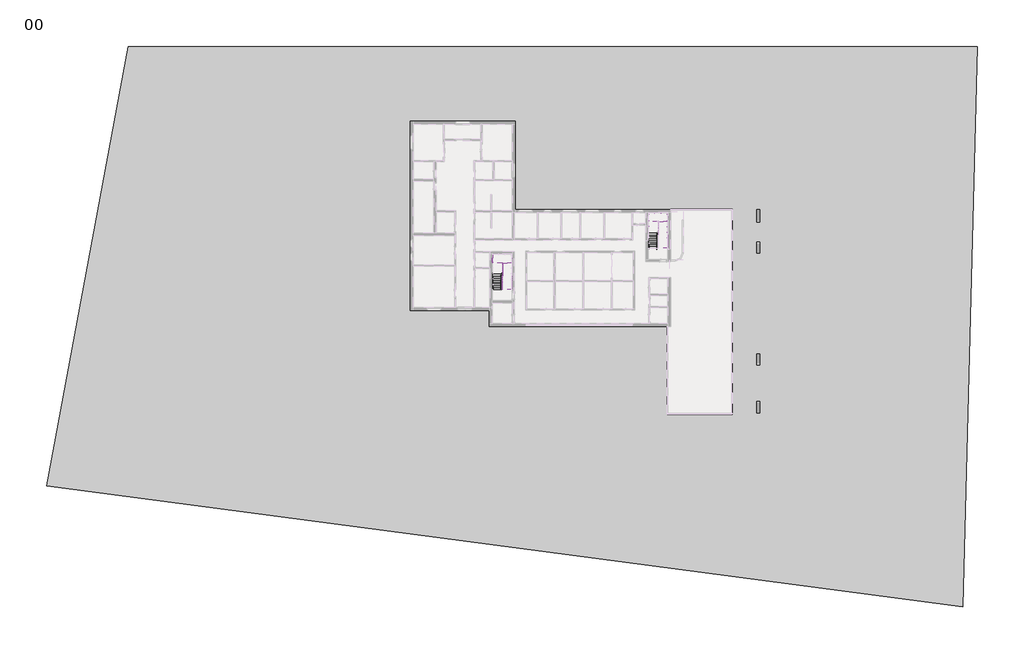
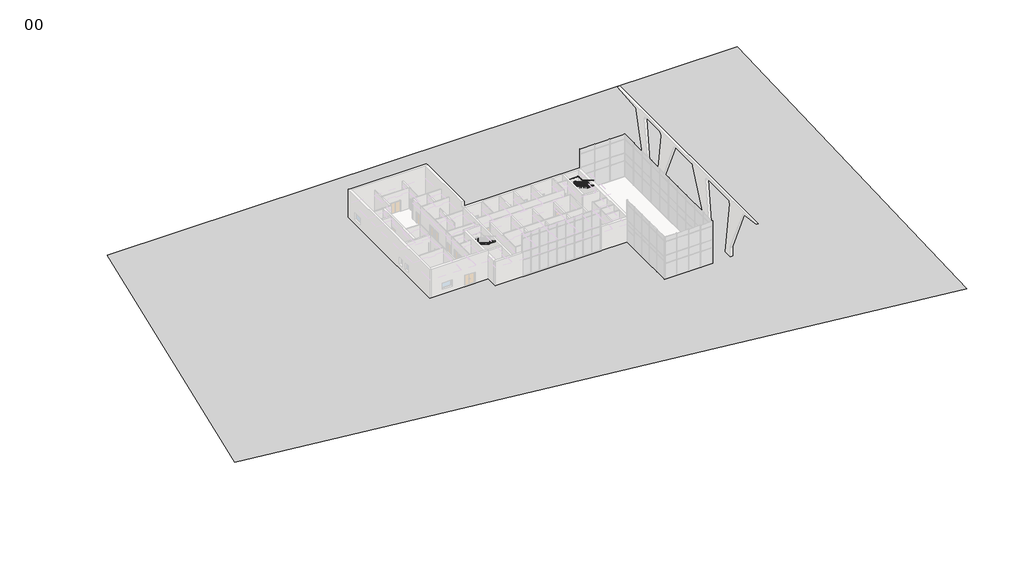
# One storey, part 10 of 11: 11 proxies, 5 members, 4 stair flights, 2 railings, 2 slabs.
"""IFC4 building model written with IfcOpenShell, lengths in millimetres."""

from ifc_helpers import new_model, si_unit, frame, origin, place, context, project, spatial, polyline, circle_curve, ellipse_curve, outline, extrude, faceted_brep, triangles, transform, mapped, element, save
from ifc_brep_helpers import plane_surface, cylinder_surface, advanced_brep
from components import support_circular_support_bend_943144f1, slab_b5527e81, slab_eed05af2, stair_flight_633f8e3b, stair_flight_4ffd47d7, stair_flight_bc6c97eb, stair_flight_164fe082

model = new_model("IFC4")

# Units and contexts
model_context = context("Model", 3, world=origin())
ifc_project = project(units=[si_unit("LENGTHUNIT", "METRE", prefix="MILLI")], contexts=[model_context])

# Site, building, storey
site = spatial("IfcSite", under=ifc_project)
building = spatial("IfcBuilding", under=site)
storey = spatial("IfcBuildingStorey", under=building, Name="00", Elevation=0.0)

# Proxies
placement = place(None, origin())
element("IfcBuildingElementProxy", 1, Name="Building Element Proxy", at=placement, inside=storey, context=model_context, shape_type="Tessellation", body=[
    triangles([(373960.8761719, -359449.724707, 0.0), (486915.2094727, -359492.6244141, 0.0), (484957.7847656, -434074.7138672, 0.0), (363074.3220703, -417951.6049805, 0.0)], [[1, 4, 3], [3, 2, 1]], closed=False),
])
support_circular_support_bend_shape = support_circular_support_bend_943144f1(model_context)
element("IfcBuildingElementProxy", 2, Name="Support_ Circular : Support_Bend", ObjectType="Support_ Circular : Support_Bend", at=placement, inside=storey, context=model_context, shape_type="MappedRepresentation", body=[
    mapped(support_circular_support_bend_shape, transform((443252.7206883, -383415.7141444, 2725.5730965), x_axis=(0.0, 1.0, 0.0), y_axis=(-1.0, 0.0, 0.0), z_axis=(0.0, 0.0, 1.0))),
])
element("IfcBuildingElementProxy", 3, Name="Support_ Circular : Support_Bend", ObjectType="Support_ Circular : Support_Bend", at=placement, inside=storey, context=model_context, shape_type="MappedRepresentation", body=[
    mapped(support_circular_support_bend_shape, transform((443252.7206883, -382670.8797684, 3172.4737221), x_axis=(0.0, 1.0, 0.0), y_axis=(-1.0, 0.0, 0.0), z_axis=(0.0, 0.0, 1.0))),
])
element("IfcBuildingElementProxy", 4, Name="Support_ Circular : Support_Bend", ObjectType="Support_ Circular : Support_Bend", at=placement, inside=storey, context=model_context, shape_type="MappedRepresentation", body=[
    mapped(support_circular_support_bend_shape, transform((443252.7206883, -381840.353659, 3310.0), x_axis=(0.0, 1.0, 0.0), y_axis=(-1.0, 0.0, 0.0), z_axis=(0.0, 0.0, 1.0))),
])
element("IfcBuildingElementProxy", 5, Name="Support_ Circular : Support_Bend", ObjectType="Support_ Circular : Support_Bend", at=placement, inside=storey, context=model_context, shape_type="MappedRepresentation", body=[
    mapped(support_circular_support_bend_shape, transform((443961.3883511, -381680.4026386, 3310.0), x_axis=(1.0, 0.0, 0.0), y_axis=(0.0, 1.0, 0.0), z_axis=(0.0, 0.0, 1.0))),
])
element("IfcBuildingElementProxy", 6, Name="Support_ Circular : Support_Bend", ObjectType="Support_ Circular : Support_Bend", at=placement, inside=storey, context=model_context, shape_type="MappedRepresentation", body=[
    mapped(support_circular_support_bend_shape, transform((444830.0070343, -381680.4026386, 3310.0), x_axis=(1.0, 0.0, 0.0), y_axis=(0.0, 1.0, 0.0), z_axis=(0.0, 0.0, 1.0))),
])
element("IfcBuildingElementProxy", 7, Name="Support_ Circular : Support_Bend", ObjectType="Support_ Circular : Support_Bend", at=placement, inside=storey, context=model_context, shape_type="MappedRepresentation", body=[
    mapped(support_circular_support_bend_shape, transform((445607.9206883, -381771.1076677, 3310.0), x_axis=(0.0, -1.0, 0.0), y_axis=(1.0, 0.0, 0.0), z_axis=(0.0, 0.0, 1.0))),
])
element("IfcBuildingElementProxy", 8, Name="Support_ Circular : Support_Bend", ObjectType="Support_ Circular : Support_Bend", at=placement, inside=storey, context=model_context, shape_type="MappedRepresentation", body=[
    mapped(support_circular_support_bend_shape, transform((445607.9206883, -382639.7263509, 3310.0), x_axis=(0.0, -1.0, 0.0), y_axis=(1.0, 0.0, 0.0), z_axis=(0.0, 0.0, 1.0))),
])
element("IfcBuildingElementProxy", 9, Name="Support_ Circular : Support_Bend", ObjectType="Support_ Circular : Support_Bend", at=placement, inside=storey, context=model_context, shape_type="MappedRepresentation", body=[
    mapped(support_circular_support_bend_shape, transform((445607.9206883, -383415.7141444, 3644.4269035), x_axis=(0.0, -1.0, 0.0), y_axis=(1.0, 0.0, 0.0), z_axis=(0.0, 0.0, 1.0))),
])
element("IfcBuildingElementProxy", 10, Name="Support_ Circular : Support_Bend", ObjectType="Support_ Circular : Support_Bend", at=placement, inside=storey, context=model_context, shape_type="MappedRepresentation", body=[
    mapped(support_circular_support_bend_shape, transform((445607.9206883, -384160.5485203, 4091.327529), x_axis=(0.0, -1.0, 0.0), y_axis=(1.0, 0.0, 0.0), z_axis=(0.0, 0.0, 1.0))),
])
element("IfcBuildingElementProxy", 11, Name="Support_ Circular : Support_Bend", ObjectType="Support_ Circular : Support_Bend", at=placement, inside=storey, context=model_context, shape_type="MappedRepresentation", body=[
    mapped(support_circular_support_bend_shape, transform((445607.9206883, -384905.3828963, 4538.2281546), x_axis=(0.0, -1.0, 0.0), y_axis=(1.0, 0.0, 0.0), z_axis=(0.0, 0.0, 1.0))),
])

# Members
element("IfcMember", 12, ObjectType="Stringer_25x250mm_Material", at=placement, inside=storey, context=model_context, shape_type="SweptSolid", body=[
    extrude(outline(polyline([(-391774.0026386, 0.0), (-391774.0026386, 177.2380758), (-388236.0660983, 2300.0), (-388166.820107, 2050.0), (-391583.4867737, 0.0), (-391774.0026386, 0.0)])), frame((422376.3206883, 0.0, 0.0), z_axis=(1.0, 0.0, 0.0), x_axis=(0.0, 1.0, 0.0)), (0.0, 0.0, 1.0), 25.0),
])
element("IfcMember", 13, ObjectType="Stringer_25x250mm_Material", at=placement, inside=storey, context=model_context, shape_type="SweptSolid", body=[
    extrude(outline(polyline([(-391774.0026386, 0.0), (-391774.0026386, 177.2380758), (-388299.0026386, 2262.2380758), (-388299.0026386, 1970.6904811), (-391583.4867737, 0.0), (-391774.0026386, 0.0)])), frame((423601.3206883, 0.0, 0.0), z_axis=(1.0, 0.0, 0.0), x_axis=(0.0, 1.0, 0.0)), (0.0, 0.0, 1.0), 25.0),
])
element("IfcMember", 14, ObjectType="Stringer_25x250mm_Material", at=placement, inside=storey, context=model_context, shape_type="SweptSolid", body=[
    extrude(outline(polyline([(-388274.0026386, 2427.2380758), (-388274.0026386, 2135.6904811), (-391774.0026386, 4235.6904811), (-391774.0026386, 4527.2380758), (-388274.0026386, 2427.2380758)])), frame((423726.3206883, 0.0, 0.0), z_axis=(1.0, 0.0, 0.0), x_axis=(0.0, 1.0, 0.0)), (0.0, 0.0, 1.0), 25.0),
])
element("IfcMember", 15, ObjectType="Stringer_25x250mm_Material", at=placement, inside=storey, context=model_context, shape_type="Brep", body=[
    faceted_brep([(422401.3206883, -387074.0026386, 2300.0), (422376.3206883, -387049.0026386, 2300.0), (422376.3206883, -388236.0660983, 2300.0), (422401.3206883, -388236.0660983, 2300.0), (422401.3206883, -387074.0026386, 2050.0), (422401.3206883, -388166.820107, 2050.0), (422376.3206883, -387049.0026386, 2050.0), (422376.3206883, -388166.820107, 2050.0)], [[[0, 1, 2, 3]], [[4, 0, 3, 5]], [[6, 4, 5, 7]], [[1, 6, 7, 2]], [[1, 0, 4, 6]], [[2, 7, 5, 3]]]),
])
element("IfcMember", 16, ObjectType="Stringer_25x250mm_Material", at=placement, inside=storey, context=model_context, shape_type="SweptSolid", body=[
    extrude(outline(polyline([(423601.3206883, -388299.0026386), (423601.3206883, -388274.0026386), (423726.3206883, -388274.0026386), (423726.3206883, -388299.0026386), (423601.3206883, -388299.0026386)])), frame((0.0, 0.0, 2050.0), z_axis=(0.0, 0.0, 1.0), x_axis=(1.0, 0.0, 0.0)), (0.0, 0.0, 1.0), 250.0),
])

# Railings
element("IfcRailing", 17, ObjectType="Concept_900-1100mm_RailStop_Baluster", at=placement, inside=storey, context=model_context, shape_type="SolidModel", body=[
    advanced_brep(
    [(444261.9206883, -386470.0026386, 1030.0), (444221.9206883, -386470.0026386, 1030.0), (444261.9206883, -386269.4629593, 1030.0), (444221.9206883, -386269.4629593, 1030.0), (444261.9206883, -382729.6026386, 3153.9161924), (444221.9206883, -382729.6026386, 3153.9161924), (444261.9206883, -382729.6026386, 3330.0), (444221.9206883, -382729.6026386, 3330.0), (444261.9206883, -382689.6026386, 3330.0), (444221.9206883, -382649.6026386, 3330.0), (444321.9206883, -382689.6026386, 3330.0), (444321.9206883, -382649.6026386, 3330.0), (444598.7206883, -382689.6026386, 3330.0), (444638.7206883, -382649.6026386, 3330.0), (444598.7206883, -382863.8756512, 3330.0), (444638.7206883, -382863.8756512, 3330.0), (444598.7206883, -386280.5423179, 5380.0), (444638.7206883, -386280.5423179, 5380.0), (444598.7206883, -386670.0026386, 5380.0), (444638.7206883, -386670.0026386, 5380.0)],
    [
        (0, 1, circle_curve(frame((444241.9206883, -386470.0026386, 1030.0), z_axis=(0.0, -1.0, 0.0), x_axis=(-1.0, 0.0, 0.0)), 20.0)),
        (1, 0, circle_curve(frame((444241.9206883, -386470.0026386, 1030.0), z_axis=(0.0, -1.0, 0.0), x_axis=(-1.0, 0.0, 0.0)), 20.0)),
        (0, 2),
        (2, 3, ellipse_curve(frame((444241.9206883, -386269.4629593, 1030.0), z_axis=(0.0, -0.9637149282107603, -0.26693358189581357), x_axis=(0.0, -0.26693358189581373, 0.9637149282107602)), 20.753025, 20.0)),
        (3, 1),
        (3, 2, ellipse_curve(frame((444241.9206883, -386269.4629593, 1030.0), z_axis=(0.0, -0.9637149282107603, -0.26693358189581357), x_axis=(0.0, -0.26693358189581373, 0.9637149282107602)), 20.753025, 20.0)),
        (2, 4),
        (4, 5, ellipse_curve(frame((444241.9206883, -382729.6026386, 3153.9161924), z_axis=(0.0, -0.49269881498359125, -0.8701999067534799), x_axis=(0.0, -0.8701999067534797, 0.4926988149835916)), 22.9832247, 20.0)),
        (5, 3),
        (5, 4, ellipse_curve(frame((444241.9206883, -382729.6026386, 3153.9161924), z_axis=(0.0, -0.49269881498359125, -0.8701999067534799), x_axis=(0.0, -0.8701999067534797, 0.4926988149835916)), 22.9832247, 20.0)),
        (4, 6),
        (6, 7, ellipse_curve(frame((444241.9206883, -382729.6026386, 3330.0), z_axis=(0.0, -0.7071067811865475, -0.7071067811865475), x_axis=(0.0, 0.7071067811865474, -0.7071067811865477)), 28.2842712, 20.0)),
        (7, 5),
        (7, 6, ellipse_curve(frame((444241.9206883, -382729.6026386, 3330.0), z_axis=(0.0, -0.7071067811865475, -0.7071067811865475), x_axis=(0.0, 0.7071067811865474, -0.7071067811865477)), 28.2842712, 20.0)),
        (6, 8),
        (8, 9, ellipse_curve(frame((444241.9206883, -382669.6026386, 3330.0), z_axis=(-0.7071067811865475, -0.7071067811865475, 0.0), x_axis=(0.7071067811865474, -0.7071067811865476, 0.0)), 28.2842712, 20.0)),
        (9, 7),
        (9, 8, ellipse_curve(frame((444241.9206883, -382669.6026386, 3330.0), z_axis=(-0.7071067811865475, -0.7071067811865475, 0.0), x_axis=(0.7071067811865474, -0.7071067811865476, 0.0)), 28.2842712, 20.0)),
        (8, 10),
        (10, 11, circle_curve(frame((444321.9206883, -382669.6026386, 3330.0), z_axis=(-1.0, 0.0, 0.0), x_axis=(0.0, 1.0, 0.0)), 20.0)),
        (11, 9),
        (11, 10, circle_curve(frame((444321.9206883, -382669.6026386, 3330.0), z_axis=(-1.0, 0.0, 0.0), x_axis=(0.0, 1.0, 0.0)), 20.0)),
        (10, 12),
        (12, 13, ellipse_curve(frame((444618.7206883, -382669.6026386, 3330.0), z_axis=(-0.7071067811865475, 0.7071067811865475, 0.0), x_axis=(-0.7071067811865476, -0.7071067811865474, 0.0)), 28.2842712, 20.0)),
        (13, 11),
        (13, 12, ellipse_curve(frame((444618.7206883, -382669.6026386, 3330.0), z_axis=(-0.7071067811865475, 0.7071067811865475, 0.0), x_axis=(-0.7071067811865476, -0.7071067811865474, 0.0)), 28.2842712, 20.0)),
        (12, 14),
        (14, 15, ellipse_curve(frame((444618.7206883, -382863.8756512, 3330.0), z_axis=(0.0, 0.9637149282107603, -0.2669335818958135), x_axis=(0.0, 0.26693358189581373, 0.9637149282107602)), 20.753025, 20.0)),
        (15, 13),
        (15, 14, ellipse_curve(frame((444618.7206883, -382863.8756512, 3330.0), z_axis=(0.0, 0.9637149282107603, -0.2669335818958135), x_axis=(0.0, 0.26693358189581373, 0.9637149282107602)), 20.753025, 20.0)),
        (14, 16),
        (16, 17, ellipse_curve(frame((444618.7206883, -386280.5423179, 5380.0), z_axis=(0.0, 0.9637149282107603, -0.2669335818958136), x_axis=(0.0, -0.26693358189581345, -0.9637149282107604)), 20.753025, 20.0)),
        (17, 15),
        (17, 16, ellipse_curve(frame((444618.7206883, -386280.5423179, 5380.0), z_axis=(0.0, 0.9637149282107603, -0.2669335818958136), x_axis=(0.0, -0.26693358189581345, -0.9637149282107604)), 20.753025, 20.0)),
        (18, 19, circle_curve(frame((444618.7206883, -386670.0026386, 5380.0), z_axis=(0.0, -1.0, 0.0), x_axis=(1.0, 0.0, 0.0)), 20.0)),
        (19, 18, circle_curve(frame((444618.7206883, -386670.0026386, 5380.0), z_axis=(0.0, -1.0, 0.0), x_axis=(1.0, 0.0, 0.0)), 20.0)),
        (16, 18),
        (19, 17),
    ],
    [
        plane_surface(frame((444241.9206883, -386470.0026386, 1050.0), z_axis=(0.0, -1.0, 0.0), x_axis=(0.0, 0.0, 1.0))),
        cylinder_surface(frame((444241.9206883, -386470.0026386, 1030.0), z_axis=(0.0, -1.0, 0.0), x_axis=(-1.0, 0.0, 0.0)), 20.0),
        cylinder_surface(frame((444241.9206883, -386264.7127235, 1032.8501415), z_axis=(0.0, -0.857492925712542, -0.5144957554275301), x_axis=(-1.0, 0.0, 0.0)), 20.0),
        cylinder_surface(frame((444241.9206883, -382729.6026386, 3165.24), z_axis=(0.0, 0.0, -1.0), x_axis=(-1.0, 0.0, 0.0)), 20.0),
        cylinder_surface(frame((444241.9206883, -382749.6026386, 3330.0), z_axis=(0.0, -1.0, 0.0), x_axis=(-1.0, 0.0, 0.0)), 20.0),
        cylinder_surface(frame((444241.9206883, -382669.6026386, 3330.0), z_axis=(-1.0, 0.0, 0.0), x_axis=(0.0, 1.0, 0.0)), 20.0),
        cylinder_surface(frame((444321.9206883, -382669.6026386, 3330.0), z_axis=(-1.0, 0.0, 0.0), x_axis=(0.0, 1.0, 0.0)), 20.0),
        cylinder_surface(frame((444618.7206883, -382669.6026386, 3330.0), z_axis=(0.0, 1.0, 0.0), x_axis=(1.0, 0.0, 0.0)), 20.0),
        cylinder_surface(frame((444618.7206883, -382868.6258871, 3332.8501415), z_axis=(0.0, 0.857492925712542, -0.5144957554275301), x_axis=(1.0, 0.0, 0.0)), 20.0),
        plane_surface(frame((444618.7206883, -386670.0026386, 5400.0), z_axis=(0.0, -1.0, 0.0), x_axis=(0.0, 0.0, -1.0))),
        cylinder_surface(frame((444618.7206883, -386275.0026386, 5380.0), z_axis=(0.0, 1.0, 0.0), x_axis=(1.0, 0.0, 0.0)), 20.0),
    ],
    [
        (0, [[1, 2]]),
        (1, [[-1, 3, 4, 5]]),
        (1, [[-2, -5, 6, -3]]),
        (2, [[-4, 7, 8, 9]]),
        (2, [[-6, -9, 10, -7]]),
        (3, [[-8, 11, 12, 13]]),
        (3, [[-10, -13, 14, -11]]),
        (4, [[-12, 15, 16, 17]]),
        (4, [[-14, -17, 18, -15]]),
        (5, [[-16, 19, 20, 21]]),
        (5, [[-18, -21, 22, -19]]),
        (6, [[-20, 23, 24, 25]]),
        (6, [[-22, -25, 26, -23]]),
        (7, [[-24, 27, 28, 29]]),
        (7, [[-26, -29, 30, -27]]),
        (8, [[-28, 31, 32, 33]]),
        (8, [[-30, -33, 34, -31]]),
        (9, [[35, 36]]),
        (10, [[-32, 37, -36, 38]]),
        (10, [[-34, -38, -35, -37]]),
    ],
),
    extrude(outline(polyline([(-386169.2769243, 5289.9169563), (-386169.2769243, 4350.0), (-386179.2769243, 4350.0), (-386179.2769243, 5295.9169563), (-386169.2769243, 5289.9169563)])), frame((444613.7206883, 0.0, 0.0), z_axis=(1.0, 0.0, 0.0), x_axis=(0.0, 1.0, 0.0)), (0.0, 0.0, 1.0), 10.0),
    extrude(outline(polyline([(-386068.55121, 5229.4815277), (-386068.55121, 4350.0), (-386078.55121, 4350.0), (-386078.55121, 5235.4815277), (-386068.55121, 5229.4815277)])), frame((444613.7206883, 0.0, 0.0), z_axis=(1.0, 0.0, 0.0), x_axis=(0.0, 1.0, 0.0)), (0.0, 0.0, 1.0), 10.0),
    extrude(outline(polyline([(-385967.8254958, 5169.0460991), (-385967.8254958, 4200.0), (-385977.8254958, 4200.0), (-385977.8254958, 5175.0460991), (-385967.8254958, 5169.0460991)])), frame((444613.7206883, 0.0, 0.0), z_axis=(1.0, 0.0, 0.0), x_axis=(0.0, 1.0, 0.0)), (0.0, 0.0, 1.0), 10.0),
    extrude(outline(polyline([(-385867.0997815, 5108.6106706), (-385867.0997815, 4200.0), (-385877.0997815, 4200.0), (-385877.0997815, 5114.6106706), (-385867.0997815, 5108.6106706)])), frame((444613.7206883, 0.0, 0.0), z_axis=(1.0, 0.0, 0.0), x_axis=(0.0, 1.0, 0.0)), (0.0, 0.0, 1.0), 10.0),
    extrude(outline(polyline([(-385766.3740672, 5048.175242), (-385766.3740672, 4050.0), (-385776.3740672, 4050.0), (-385776.3740672, 5054.175242), (-385766.3740672, 5048.175242)])), frame((444613.7206883, 0.0, 0.0), z_axis=(1.0, 0.0, 0.0), x_axis=(0.0, 1.0, 0.0)), (0.0, 0.0, 1.0), 10.0),
    extrude(outline(polyline([(-385665.6483529, 4987.7398134), (-385665.6483529, 4050.0), (-385675.6483529, 4050.0), (-385675.6483529, 4993.7398134), (-385665.6483529, 4987.7398134)])), frame((444613.7206883, 0.0, 0.0), z_axis=(1.0, 0.0, 0.0), x_axis=(0.0, 1.0, 0.0)), (0.0, 0.0, 1.0), 10.0),
    extrude(outline(polyline([(-385564.9226386, 4927.3043848), (-385564.9226386, 4050.0), (-385574.9226386, 4050.0), (-385574.9226386, 4933.3043848), (-385564.9226386, 4927.3043848)])), frame((444613.7206883, 0.0, 0.0), z_axis=(1.0, 0.0, 0.0), x_axis=(0.0, 1.0, 0.0)), (0.0, 0.0, 1.0), 10.0),
    extrude(outline(polyline([(-385464.1969243, 4866.8689563), (-385464.1969243, 3900.0), (-385474.1969243, 3900.0), (-385474.1969243, 4872.8689563), (-385464.1969243, 4866.8689563)])), frame((444613.7206883, 0.0, 0.0), z_axis=(1.0, 0.0, 0.0), x_axis=(0.0, 1.0, 0.0)), (0.0, 0.0, 1.0), 10.0),
    extrude(outline(polyline([(-385363.47121, 4806.4335277), (-385363.47121, 3900.0), (-385373.47121, 3900.0), (-385373.47121, 4812.4335277), (-385363.47121, 4806.4335277)])), frame((444613.7206883, 0.0, 0.0), z_axis=(1.0, 0.0, 0.0), x_axis=(0.0, 1.0, 0.0)), (0.0, 0.0, 1.0), 10.0),
    extrude(outline(polyline([(-385262.7454958, 4745.9980991), (-385262.7454958, 3750.0), (-385272.7454958, 3750.0), (-385272.7454958, 4751.9980991), (-385262.7454958, 4745.9980991)])), frame((444613.7206883, 0.0, 0.0), z_axis=(1.0, 0.0, 0.0), x_axis=(0.0, 1.0, 0.0)), (0.0, 0.0, 1.0), 10.0),
    extrude(outline(polyline([(-385162.0197815, 4685.5626706), (-385162.0197815, 3750.0), (-385172.0197815, 3750.0), (-385172.0197815, 4691.5626706), (-385162.0197815, 4685.5626706)])), frame((444613.7206883, 0.0, 0.0), z_axis=(1.0, 0.0, 0.0), x_axis=(0.0, 1.0, 0.0)), (0.0, 0.0, 1.0), 10.0),
    extrude(outline(polyline([(-385061.2940672, 4625.127242), (-385061.2940672, 3750.0), (-385071.2940672, 3750.0), (-385071.2940672, 4631.127242), (-385061.2940672, 4625.127242)])), frame((444613.7206883, 0.0, 0.0), z_axis=(1.0, 0.0, 0.0), x_axis=(0.0, 1.0, 0.0)), (0.0, 0.0, 1.0), 10.0),
    extrude(outline(polyline([(-384960.5683529, 4564.6918134), (-384960.5683529, 3600.0), (-384970.5683529, 3600.0), (-384970.5683529, 4570.6918134), (-384960.5683529, 4564.6918134)])), frame((444613.7206883, 0.0, 0.0), z_axis=(1.0, 0.0, 0.0), x_axis=(0.0, 1.0, 0.0)), (0.0, 0.0, 1.0), 10.0),
    extrude(outline(polyline([(-384859.8426386, 4504.2563848), (-384859.8426386, 3600.0), (-384869.8426386, 3600.0), (-384869.8426386, 4510.2563848), (-384859.8426386, 4504.2563848)])), frame((444613.7206883, 0.0, 0.0), z_axis=(1.0, 0.0, 0.0), x_axis=(0.0, 1.0, 0.0)), (0.0, 0.0, 1.0), 10.0),
    extrude(outline(polyline([(-384759.1169243, 4443.8209563), (-384759.1169243, 3450.0), (-384769.1169243, 3450.0), (-384769.1169243, 4449.8209563), (-384759.1169243, 4443.8209563)])), frame((444613.7206883, 0.0, 0.0), z_axis=(1.0, 0.0, 0.0), x_axis=(0.0, 1.0, 0.0)), (0.0, 0.0, 1.0), 10.0),
    extrude(outline(polyline([(-384658.39121, 4383.3855277), (-384658.39121, 3450.0), (-384668.39121, 3450.0), (-384668.39121, 4389.3855277), (-384658.39121, 4383.3855277)])), frame((444613.7206883, 0.0, 0.0), z_axis=(1.0, 0.0, 0.0), x_axis=(0.0, 1.0, 0.0)), (0.0, 0.0, 1.0), 10.0),
    extrude(outline(polyline([(-384557.6654958, 4322.9500991), (-384557.6654958, 3450.0), (-384567.6654958, 3450.0), (-384567.6654958, 4328.9500991), (-384557.6654958, 4322.9500991)])), frame((444613.7206883, 0.0, 0.0), z_axis=(1.0, 0.0, 0.0), x_axis=(0.0, 1.0, 0.0)), (0.0, 0.0, 1.0), 10.0),
    extrude(outline(polyline([(-384456.9397815, 4262.5146706), (-384456.9397815, 3300.0), (-384466.9397815, 3300.0), (-384466.9397815, 4268.5146706), (-384456.9397815, 4262.5146706)])), frame((444613.7206883, 0.0, 0.0), z_axis=(1.0, 0.0, 0.0), x_axis=(0.0, 1.0, 0.0)), (0.0, 0.0, 1.0), 10.0),
    extrude(outline(polyline([(-384356.2140672, 4202.079242), (-384356.2140672, 3300.0), (-384366.2140672, 3300.0), (-384366.2140672, 4208.079242), (-384356.2140672, 4202.079242)])), frame((444613.7206883, 0.0, 0.0), z_axis=(1.0, 0.0, 0.0), x_axis=(0.0, 1.0, 0.0)), (0.0, 0.0, 1.0), 10.0),
    extrude(outline(polyline([(-384255.4883529, 4141.6438134), (-384255.4883529, 3150.0), (-384265.4883529, 3150.0), (-384265.4883529, 4147.6438134), (-384255.4883529, 4141.6438134)])), frame((444613.7206883, 0.0, 0.0), z_axis=(1.0, 0.0, 0.0), x_axis=(0.0, 1.0, 0.0)), (0.0, 0.0, 1.0), 10.0),
    extrude(outline(polyline([(-384154.7626386, 4081.2083848), (-384154.7626386, 3150.0), (-384164.7626386, 3150.0), (-384164.7626386, 4087.2083848), (-384154.7626386, 4081.2083848)])), frame((444613.7206883, 0.0, 0.0), z_axis=(1.0, 0.0, 0.0), x_axis=(0.0, 1.0, 0.0)), (0.0, 0.0, 1.0), 10.0),
    extrude(outline(polyline([(-384054.0369243, 4020.7729563), (-384054.0369243, 3150.0), (-384064.0369243, 3150.0), (-384064.0369243, 4026.7729563), (-384054.0369243, 4020.7729563)])), frame((444613.7206883, 0.0, 0.0), z_axis=(1.0, 0.0, 0.0), x_axis=(0.0, 1.0, 0.0)), (0.0, 0.0, 1.0), 10.0),
    extrude(outline(polyline([(-383953.31121, 3960.3375277), (-383953.31121, 3000.0), (-383963.31121, 3000.0), (-383963.31121, 3966.3375277), (-383953.31121, 3960.3375277)])), frame((444613.7206883, 0.0, 0.0), z_axis=(1.0, 0.0, 0.0), x_axis=(0.0, 1.0, 0.0)), (0.0, 0.0, 1.0), 10.0),
    extrude(outline(polyline([(-383852.5854958, 3899.9020991), (-383852.5854958, 3000.0), (-383862.5854958, 3000.0), (-383862.5854958, 3905.9020991), (-383852.5854958, 3899.9020991)])), frame((444613.7206883, 0.0, 0.0), z_axis=(1.0, 0.0, 0.0), x_axis=(0.0, 1.0, 0.0)), (0.0, 0.0, 1.0), 10.0),
    extrude(outline(polyline([(-383751.8597815, 3839.4666706), (-383751.8597815, 2850.0), (-383761.8597815, 2850.0), (-383761.8597815, 3845.4666706), (-383751.8597815, 3839.4666706)])), frame((444613.7206883, 0.0, 0.0), z_axis=(1.0, 0.0, 0.0), x_axis=(0.0, 1.0, 0.0)), (0.0, 0.0, 1.0), 10.0),
    extrude(outline(polyline([(-383651.1340672, 3779.031242), (-383651.1340672, 2850.0), (-383661.1340672, 2850.0), (-383661.1340672, 3785.031242), (-383651.1340672, 3779.031242)])), frame((444613.7206883, 0.0, 0.0), z_axis=(1.0, 0.0, 0.0), x_axis=(0.0, 1.0, 0.0)), (0.0, 0.0, 1.0), 10.0),
    extrude(outline(polyline([(-383550.4083529, 3718.5958134), (-383550.4083529, 2850.0), (-383560.4083529, 2850.0), (-383560.4083529, 3724.5958134), (-383550.4083529, 3718.5958134)])), frame((444613.7206883, 0.0, 0.0), z_axis=(1.0, 0.0, 0.0), x_axis=(0.0, 1.0, 0.0)), (0.0, 0.0, 1.0), 10.0),
    extrude(outline(polyline([(-383449.6826386, 3658.1603848), (-383449.6826386, 2700.0), (-383459.6826386, 2700.0), (-383459.6826386, 3664.1603848), (-383449.6826386, 3658.1603848)])), frame((444613.7206883, 0.0, 0.0), z_axis=(1.0, 0.0, 0.0), x_axis=(0.0, 1.0, 0.0)), (0.0, 0.0, 1.0), 10.0),
    extrude(outline(polyline([(-383348.9569243, 3597.7249563), (-383348.9569243, 2700.0), (-383358.9569243, 2700.0), (-383358.9569243, 3603.7249563), (-383348.9569243, 3597.7249563)])), frame((444613.7206883, 0.0, 0.0), z_axis=(1.0, 0.0, 0.0), x_axis=(0.0, 1.0, 0.0)), (0.0, 0.0, 1.0), 10.0),
    extrude(outline(polyline([(-383248.23121, 3537.2895277), (-383248.23121, 2550.0), (-383258.23121, 2550.0), (-383258.23121, 3543.2895277), (-383248.23121, 3537.2895277)])), frame((444613.7206883, 0.0, 0.0), z_axis=(1.0, 0.0, 0.0), x_axis=(0.0, 1.0, 0.0)), (0.0, 0.0, 1.0), 10.0),
    extrude(outline(polyline([(-383147.5054958, 3476.8540991), (-383147.5054958, 2550.0), (-383157.5054958, 2550.0), (-383157.5054958, 3482.8540991), (-383147.5054958, 3476.8540991)])), frame((444613.7206883, 0.0, 0.0), z_axis=(1.0, 0.0, 0.0), x_axis=(0.0, 1.0, 0.0)), (0.0, 0.0, 1.0), 10.0),
    extrude(outline(polyline([(-383046.7797815, 3416.4186706), (-383046.7797815, 2550.0), (-383056.7797815, 2550.0), (-383056.7797815, 3422.4186706), (-383046.7797815, 3416.4186706)])), frame((444613.7206883, 0.0, 0.0), z_axis=(1.0, 0.0, 0.0), x_axis=(0.0, 1.0, 0.0)), (0.0, 0.0, 1.0), 10.0),
    extrude(outline(polyline([(-382946.0540672, 3355.983242), (-382946.0540672, 2400.0), (-382956.0540672, 2400.0), (-382956.0540672, 3361.983242), (-382946.0540672, 3355.983242)])), frame((444613.7206883, 0.0, 0.0), z_axis=(1.0, 0.0, 0.0), x_axis=(0.0, 1.0, 0.0)), (0.0, 0.0, 1.0), 10.0),
    extrude(outline(polyline([(444613.7206883, -382845.3283529), (444623.7206883, -382845.3283529), (444623.7206883, -382855.3283529), (444613.7206883, -382855.3283529), (444613.7206883, -382845.3283529)])), frame((0.0, 0.0, 2400.0), z_axis=(0.0, 0.0, 1.0), x_axis=(1.0, 0.0, 0.0)), (0.0, 0.0, 1.0), 910.0),
    extrude(outline(polyline([(444425.3206883, -382674.6026386), (444425.3206883, -382664.6026386), (444435.3206883, -382664.6026386), (444435.3206883, -382674.6026386), (444425.3206883, -382674.6026386)])), frame((0.0, 0.0, 2250.0), z_axis=(0.0, 0.0, 1.0), x_axis=(1.0, 0.0, 0.0)), (0.0, 0.0, 1.0), 1060.0),
    extrude(outline(polyline([(-382855.3283529, 2100.0), (-382855.3283529, 3055.1569563), (-382845.3283529, 3061.1569563), (-382845.3283529, 2100.0), (-382855.3283529, 2100.0)])), frame((444236.9206883, 0.0, 0.0), z_axis=(1.0, 0.0, 0.0), x_axis=(0.0, 1.0, 0.0)), (0.0, 0.0, 1.0), 10.0),
    extrude(outline(polyline([(-382956.0540672, 2100.0), (-382956.0540672, 2994.7215277), (-382946.0540672, 3000.7215277), (-382946.0540672, 2100.0), (-382956.0540672, 2100.0)])), frame((444236.9206883, 0.0, 0.0), z_axis=(1.0, 0.0, 0.0), x_axis=(0.0, 1.0, 0.0)), (0.0, 0.0, 1.0), 10.0),
    extrude(outline(polyline([(-383056.7797815, 1950.0), (-383056.7797815, 2934.2860991), (-383046.7797815, 2940.2860991), (-383046.7797815, 1950.0), (-383056.7797815, 1950.0)])), frame((444236.9206883, 0.0, 0.0), z_axis=(1.0, 0.0, 0.0), x_axis=(0.0, 1.0, 0.0)), (0.0, 0.0, 1.0), 10.0),
    extrude(outline(polyline([(-383157.5054958, 1950.0), (-383157.5054958, 2873.8506706), (-383147.5054958, 2879.8506706), (-383147.5054958, 1950.0), (-383157.5054958, 1950.0)])), frame((444236.9206883, 0.0, 0.0), z_axis=(1.0, 0.0, 0.0), x_axis=(0.0, 1.0, 0.0)), (0.0, 0.0, 1.0), 10.0),
    extrude(outline(polyline([(-383258.23121, 1950.0), (-383258.23121, 2813.415242), (-383248.23121, 2819.415242), (-383248.23121, 1950.0), (-383258.23121, 1950.0)])), frame((444236.9206883, 0.0, 0.0), z_axis=(1.0, 0.0, 0.0), x_axis=(0.0, 1.0, 0.0)), (0.0, 0.0, 1.0), 10.0),
    extrude(outline(polyline([(-383358.9569243, 1800.0), (-383358.9569243, 2752.9798134), (-383348.9569243, 2758.9798134), (-383348.9569243, 1800.0), (-383358.9569243, 1800.0)])), frame((444236.9206883, 0.0, 0.0), z_axis=(1.0, 0.0, 0.0), x_axis=(0.0, 1.0, 0.0)), (0.0, 0.0, 1.0), 10.0),
    extrude(outline(polyline([(-383459.6826386, 1800.0), (-383459.6826386, 2692.5443848), (-383449.6826386, 2698.5443848), (-383449.6826386, 1800.0), (-383459.6826386, 1800.0)])), frame((444236.9206883, 0.0, 0.0), z_axis=(1.0, 0.0, 0.0), x_axis=(0.0, 1.0, 0.0)), (0.0, 0.0, 1.0), 10.0),
    extrude(outline(polyline([(-383560.4083529, 1650.0), (-383560.4083529, 2632.1089563), (-383550.4083529, 2638.1089563), (-383550.4083529, 1650.0), (-383560.4083529, 1650.0)])), frame((444236.9206883, 0.0, 0.0), z_axis=(1.0, 0.0, 0.0), x_axis=(0.0, 1.0, 0.0)), (0.0, 0.0, 1.0), 10.0),
    extrude(outline(polyline([(-383661.1340672, 1650.0), (-383661.1340672, 2571.6735277), (-383651.1340672, 2577.6735277), (-383651.1340672, 1650.0), (-383661.1340672, 1650.0)])), frame((444236.9206883, 0.0, 0.0), z_axis=(1.0, 0.0, 0.0), x_axis=(0.0, 1.0, 0.0)), (0.0, 0.0, 1.0), 10.0),
    extrude(outline(polyline([(-383761.8597815, 1650.0), (-383761.8597815, 2511.2380991), (-383751.8597815, 2517.2380991), (-383751.8597815, 1650.0), (-383761.8597815, 1650.0)])), frame((444236.9206883, 0.0, 0.0), z_axis=(1.0, 0.0, 0.0), x_axis=(0.0, 1.0, 0.0)), (0.0, 0.0, 1.0), 10.0),
    extrude(outline(polyline([(-383862.5854958, 1500.0), (-383862.5854958, 2450.8026706), (-383852.5854958, 2456.8026706), (-383852.5854958, 1500.0), (-383862.5854958, 1500.0)])), frame((444236.9206883, 0.0, 0.0), z_axis=(1.0, 0.0, 0.0), x_axis=(0.0, 1.0, 0.0)), (0.0, 0.0, 1.0), 10.0),
    extrude(outline(polyline([(-383963.31121, 1500.0), (-383963.31121, 2390.367242), (-383953.31121, 2396.367242), (-383953.31121, 1500.0), (-383963.31121, 1500.0)])), frame((444236.9206883, 0.0, 0.0), z_axis=(1.0, 0.0, 0.0), x_axis=(0.0, 1.0, 0.0)), (0.0, 0.0, 1.0), 10.0),
    extrude(outline(polyline([(-384064.0369243, 1350.0), (-384064.0369243, 2329.9318134), (-384054.0369243, 2335.9318134), (-384054.0369243, 1350.0), (-384064.0369243, 1350.0)])), frame((444236.9206883, 0.0, 0.0), z_axis=(1.0, 0.0, 0.0), x_axis=(0.0, 1.0, 0.0)), (0.0, 0.0, 1.0), 10.0),
    extrude(outline(polyline([(-384164.7626386, 1350.0), (-384164.7626386, 2269.4963848), (-384154.7626386, 2275.4963848), (-384154.7626386, 1350.0), (-384164.7626386, 1350.0)])), frame((444236.9206883, 0.0, 0.0), z_axis=(1.0, 0.0, 0.0), x_axis=(0.0, 1.0, 0.0)), (0.0, 0.0, 1.0), 10.0),
    extrude(outline(polyline([(-384265.4883529, 1350.0), (-384265.4883529, 2209.0609563), (-384255.4883529, 2215.0609563), (-384255.4883529, 1350.0), (-384265.4883529, 1350.0)])), frame((444236.9206883, 0.0, 0.0), z_axis=(1.0, 0.0, 0.0), x_axis=(0.0, 1.0, 0.0)), (0.0, 0.0, 1.0), 10.0),
    extrude(outline(polyline([(-384366.2140672, 1200.0), (-384366.2140672, 2148.6255277), (-384356.2140672, 2154.6255277), (-384356.2140672, 1200.0), (-384366.2140672, 1200.0)])), frame((444236.9206883, 0.0, 0.0), z_axis=(1.0, 0.0, 0.0), x_axis=(0.0, 1.0, 0.0)), (0.0, 0.0, 1.0), 10.0),
    extrude(outline(polyline([(-384466.9397815, 1200.0), (-384466.9397815, 2088.1900991), (-384456.9397815, 2094.1900991), (-384456.9397815, 1200.0), (-384466.9397815, 1200.0)])), frame((444236.9206883, 0.0, 0.0), z_axis=(1.0, 0.0, 0.0), x_axis=(0.0, 1.0, 0.0)), (0.0, 0.0, 1.0), 10.0),
    extrude(outline(polyline([(-384567.6654958, 1050.0), (-384567.6654958, 2027.7546706), (-384557.6654958, 2033.7546706), (-384557.6654958, 1050.0), (-384567.6654958, 1050.0)])), frame((444236.9206883, 0.0, 0.0), z_axis=(1.0, 0.0, 0.0), x_axis=(0.0, 1.0, 0.0)), (0.0, 0.0, 1.0), 10.0),
    extrude(outline(polyline([(-384668.39121, 1050.0), (-384668.39121, 1967.319242), (-384658.39121, 1973.319242), (-384658.39121, 1050.0), (-384668.39121, 1050.0)])), frame((444236.9206883, 0.0, 0.0), z_axis=(1.0, 0.0, 0.0), x_axis=(0.0, 1.0, 0.0)), (0.0, 0.0, 1.0), 10.0),
    extrude(outline(polyline([(-384769.1169243, 1050.0), (-384769.1169243, 1906.8838134), (-384759.1169243, 1912.8838134), (-384759.1169243, 1050.0), (-384769.1169243, 1050.0)])), frame((444236.9206883, 0.0, 0.0), z_axis=(1.0, 0.0, 0.0), x_axis=(0.0, 1.0, 0.0)), (0.0, 0.0, 1.0), 10.0),
    extrude(outline(polyline([(-384869.8426386, 900.0), (-384869.8426386, 1846.4483848), (-384859.8426386, 1852.4483848), (-384859.8426386, 900.0), (-384869.8426386, 900.0)])), frame((444236.9206883, 0.0, 0.0), z_axis=(1.0, 0.0, 0.0), x_axis=(0.0, 1.0, 0.0)), (0.0, 0.0, 1.0), 10.0),
    extrude(outline(polyline([(-384970.5683529, 900.0), (-384970.5683529, 1786.0129563), (-384960.5683529, 1792.0129563), (-384960.5683529, 900.0), (-384970.5683529, 900.0)])), frame((444236.9206883, 0.0, 0.0), z_axis=(1.0, 0.0, 0.0), x_axis=(0.0, 1.0, 0.0)), (0.0, 0.0, 1.0), 10.0),
    extrude(outline(polyline([(-385071.2940672, 750.0), (-385071.2940672, 1725.5775277), (-385061.2940672, 1731.5775277), (-385061.2940672, 750.0), (-385071.2940672, 750.0)])), frame((444236.9206883, 0.0, 0.0), z_axis=(1.0, 0.0, 0.0), x_axis=(0.0, 1.0, 0.0)), (0.0, 0.0, 1.0), 10.0),
    extrude(outline(polyline([(-385172.0197815, 750.0), (-385172.0197815, 1665.1420991), (-385162.0197815, 1671.1420991), (-385162.0197815, 750.0), (-385172.0197815, 750.0)])), frame((444236.9206883, 0.0, 0.0), z_axis=(1.0, 0.0, 0.0), x_axis=(0.0, 1.0, 0.0)), (0.0, 0.0, 1.0), 10.0),
    extrude(outline(polyline([(-385272.7454958, 750.0), (-385272.7454958, 1604.7066706), (-385262.7454958, 1610.7066706), (-385262.7454958, 750.0), (-385272.7454958, 750.0)])), frame((444236.9206883, 0.0, 0.0), z_axis=(1.0, 0.0, 0.0), x_axis=(0.0, 1.0, 0.0)), (0.0, 0.0, 1.0), 10.0),
    extrude(outline(polyline([(-385373.47121, 600.0), (-385373.47121, 1544.271242), (-385363.47121, 1550.271242), (-385363.47121, 600.0), (-385373.47121, 600.0)])), frame((444236.9206883, 0.0, 0.0), z_axis=(1.0, 0.0, 0.0), x_axis=(0.0, 1.0, 0.0)), (0.0, 0.0, 1.0), 10.0),
    extrude(outline(polyline([(-385474.1969243, 600.0), (-385474.1969243, 1483.8358134), (-385464.1969243, 1489.8358134), (-385464.1969243, 600.0), (-385474.1969243, 600.0)])), frame((444236.9206883, 0.0, 0.0), z_axis=(1.0, 0.0, 0.0), x_axis=(0.0, 1.0, 0.0)), (0.0, 0.0, 1.0), 10.0),
    extrude(outline(polyline([(-385574.9226386, 450.0), (-385574.9226386, 1423.4003848), (-385564.9226386, 1429.4003848), (-385564.9226386, 450.0), (-385574.9226386, 450.0)])), frame((444236.9206883, 0.0, 0.0), z_axis=(1.0, 0.0, 0.0), x_axis=(0.0, 1.0, 0.0)), (0.0, 0.0, 1.0), 10.0),
    extrude(outline(polyline([(-385675.6483529, 450.0), (-385675.6483529, 1362.9649563), (-385665.6483529, 1368.9649563), (-385665.6483529, 450.0), (-385675.6483529, 450.0)])), frame((444236.9206883, 0.0, 0.0), z_axis=(1.0, 0.0, 0.0), x_axis=(0.0, 1.0, 0.0)), (0.0, 0.0, 1.0), 10.0),
    extrude(outline(polyline([(-385776.3740672, 450.0), (-385776.3740672, 1302.5295277), (-385766.3740672, 1308.5295277), (-385766.3740672, 450.0), (-385776.3740672, 450.0)])), frame((444236.9206883, 0.0, 0.0), z_axis=(1.0, 0.0, 0.0), x_axis=(0.0, 1.0, 0.0)), (0.0, 0.0, 1.0), 10.0),
    extrude(outline(polyline([(-385877.0997815, 300.0), (-385877.0997815, 1242.0940991), (-385867.0997815, 1248.0940991), (-385867.0997815, 300.0), (-385877.0997815, 300.0)])), frame((444236.9206883, 0.0, 0.0), z_axis=(1.0, 0.0, 0.0), x_axis=(0.0, 1.0, 0.0)), (0.0, 0.0, 1.0), 10.0),
    extrude(outline(polyline([(-385977.8254958, 300.0), (-385977.8254958, 1181.6586706), (-385967.8254958, 1187.6586706), (-385967.8254958, 300.0), (-385977.8254958, 300.0)])), frame((444236.9206883, 0.0, 0.0), z_axis=(1.0, 0.0, 0.0), x_axis=(0.0, 1.0, 0.0)), (0.0, 0.0, 1.0), 10.0),
    extrude(outline(polyline([(-386078.55121, 150.0), (-386078.55121, 1121.223242), (-386068.55121, 1127.223242), (-386068.55121, 150.0), (-386078.55121, 150.0)])), frame((444236.9206883, 0.0, 0.0), z_axis=(1.0, 0.0, 0.0), x_axis=(0.0, 1.0, 0.0)), (0.0, 0.0, 1.0), 10.0),
    extrude(outline(polyline([(-386179.2769243, 150.0), (-386179.2769243, 1060.7878134), (-386169.2769243, 1066.7878134), (-386169.2769243, 150.0), (-386179.2769243, 150.0)])), frame((444236.9206883, 0.0, 0.0), z_axis=(1.0, 0.0, 0.0), x_axis=(0.0, 1.0, 0.0)), (0.0, 0.0, 1.0), 10.0),
    extrude(outline(polyline([(444433.7206883, -382674.6026386), (444433.7206883, -382664.6026386), (444443.7206883, -382664.6026386), (444443.7206883, -382674.6026386), (444433.7206883, -382674.6026386)])), frame((0.0, 0.0, 2250.0), z_axis=(0.0, 0.0, 1.0), x_axis=(1.0, 0.0, 0.0)), (0.0, 0.0, 1.0), 1060.0),
    extrude(outline(polyline([(-382854.6026386, 2100.0), (-382854.6026386, 3055.5923848), (-382844.6026386, 3061.5923848), (-382844.6026386, 2100.0), (-382854.6026386, 2100.0)])), frame((444236.9206883, 0.0, 0.0), z_axis=(1.0, 0.0, 0.0), x_axis=(0.0, 1.0, 0.0)), (0.0, 0.0, 1.0), 10.0),
    extrude(outline(polyline([(-386170.0026386, 5290.3523848), (-386170.0026386, 4350.0), (-386180.0026386, 4350.0), (-386180.0026386, 5296.3523848), (-386170.0026386, 5290.3523848)])), frame((444613.7206883, 0.0, 0.0), z_axis=(1.0, 0.0, 0.0), x_axis=(0.0, 1.0, 0.0)), (0.0, 0.0, 1.0), 10.0),
    extrude(outline(polyline([(-386380.0026386, 90.0), (-386380.0026386, 940.3523848), (-386370.0026386, 946.3523848), (-386370.0026386, 90.0), (-386380.0026386, 90.0)])), frame((444236.9206883, 0.0, 0.0), z_axis=(1.0, 0.0, 0.0), x_axis=(0.0, 1.0, 0.0)), (0.0, 0.0, 1.0), 10.0),
])
element("IfcRailing", 18, ObjectType="Concept_900-1100mm_RailtoWall_WallMount", at=placement, inside=storey, context=model_context, shape_type="AdvancedBrep", body=[
    advanced_brep(
    [(443172.7206883, -386355.0026386, 1030.0), (443172.7206883, -386315.0026386, 1030.0), (443272.7206883, -386355.0026386, 1030.0), (443232.7206883, -386315.0026386, 1030.0), (443272.7206883, -386269.4629593, 1030.0), (443232.7206883, -386269.4629593, 1030.0), (443272.7206883, -382764.7127235, 3132.8501415), (443232.7206883, -382764.7127235, 3132.8501415), (443272.7206883, -382436.129626, 3330.0), (443232.7206883, -382436.129626, 3330.0), (443272.7206883, -381700.4026386, 3330.0), (443232.7206883, -381660.4026386, 3330.0), (445587.9206883, -381700.4026386, 3330.0), (445627.9206883, -381660.4026386, 3330.0), (445587.9206883, -382775.0026386, 3330.0), (445627.9206883, -382775.0026386, 3330.0), (445587.9206883, -382863.8756512, 3330.0), (445627.9206883, -382863.8756512, 3330.0), (445587.9206883, -386280.5423179, 5380.0), (445627.9206883, -386280.5423179, 5380.0), (445587.9206883, -386355.0026386, 5380.0), (445627.9206883, -386315.0026386, 5380.0), (445687.9206883, -386355.0026386, 5380.0), (445687.9206883, -386315.0026386, 5380.0)],
    [
        (0, 1, circle_curve(frame((443172.7206883, -386335.0026386, 1030.0), z_axis=(-1.0, 0.0, 0.0), x_axis=(0.0, 1.0, 0.0)), 20.0)),
        (1, 0, circle_curve(frame((443172.7206883, -386335.0026386, 1030.0), z_axis=(-1.0, 0.0, 0.0), x_axis=(0.0, 1.0, 0.0)), 20.0)),
        (0, 2),
        (2, 3, ellipse_curve(frame((443252.7206883, -386335.0026386, 1030.0), z_axis=(-0.7071067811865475, -0.7071067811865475, 0.0), x_axis=(-0.7071067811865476, 0.7071067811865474, 0.0)), 28.2842712, 20.0)),
        (3, 1),
        (3, 2, ellipse_curve(frame((443252.7206883, -386335.0026386, 1030.0), z_axis=(-0.7071067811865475, -0.7071067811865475, 0.0), x_axis=(-0.7071067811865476, 0.7071067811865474, 0.0)), 28.2842712, 20.0)),
        (2, 4),
        (4, 5, ellipse_curve(frame((443252.7206883, -386269.4629593, 1030.0), z_axis=(0.0, -0.9637149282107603, -0.26693358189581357), x_axis=(0.0, -0.26693358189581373, 0.9637149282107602)), 20.753025, 20.0)),
        (5, 3),
        (5, 4, ellipse_curve(frame((443252.7206883, -386269.4629593, 1030.0), z_axis=(0.0, -0.9637149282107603, -0.26693358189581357), x_axis=(0.0, -0.26693358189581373, 0.9637149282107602)), 20.753025, 20.0)),
        (4, 6),
        (6, 7, circle_curve(frame((443252.7206883, -382764.7127235, 3132.8501415), z_axis=(0.0, -0.857492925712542, -0.5144957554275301), x_axis=(-1.0, 0.0, 0.0)), 20.0)),
        (7, 5),
        (7, 6, circle_curve(frame((443252.7206883, -382764.7127235, 3132.8501415), z_axis=(0.0, -0.857492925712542, -0.5144957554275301), x_axis=(-1.0, 0.0, 0.0)), 20.0)),
        (6, 8),
        (8, 9, ellipse_curve(frame((443252.7206883, -382436.129626, 3330.0), z_axis=(0.0, -0.9637149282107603, -0.2669335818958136), x_axis=(0.0, 0.26693358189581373, -0.9637149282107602)), 20.753025, 20.0)),
        (9, 7),
        (9, 8, ellipse_curve(frame((443252.7206883, -382436.129626, 3330.0), z_axis=(0.0, -0.9637149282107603, -0.2669335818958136), x_axis=(0.0, 0.26693358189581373, -0.9637149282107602)), 20.753025, 20.0)),
        (8, 10),
        (10, 11, ellipse_curve(frame((443252.7206883, -381680.4026386, 3330.0), z_axis=(-0.7071067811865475, -0.7071067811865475, 0.0), x_axis=(0.7071067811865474, -0.7071067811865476, 0.0)), 28.2842712, 20.0)),
        (11, 9),
        (11, 10, ellipse_curve(frame((443252.7206883, -381680.4026386, 3330.0), z_axis=(-0.7071067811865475, -0.7071067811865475, 0.0), x_axis=(0.7071067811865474, -0.7071067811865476, 0.0)), 28.2842712, 20.0)),
        (10, 12),
        (12, 13, ellipse_curve(frame((445607.9206883, -381680.4026386, 3330.0), z_axis=(-0.7071067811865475, 0.7071067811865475, 0.0), x_axis=(-0.7071067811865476, -0.7071067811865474, 0.0)), 28.2842712, 20.0)),
        (13, 11),
        (13, 12, ellipse_curve(frame((445607.9206883, -381680.4026386, 3330.0), z_axis=(-0.7071067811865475, 0.7071067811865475, 0.0), x_axis=(-0.7071067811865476, -0.7071067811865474, 0.0)), 28.2842712, 20.0)),
        (12, 14),
        (14, 15, circle_curve(frame((445607.9206883, -382775.0026386, 3330.0), z_axis=(0.0, 1.0, 0.0), x_axis=(1.0, 0.0, 0.0)), 20.0)),
        (15, 13),
        (15, 14, circle_curve(frame((445607.9206883, -382775.0026386, 3330.0), z_axis=(0.0, 1.0, 0.0), x_axis=(1.0, 0.0, 0.0)), 20.0)),
        (14, 16),
        (16, 17, ellipse_curve(frame((445607.9206883, -382863.8756512, 3330.0), z_axis=(0.0, 0.9637149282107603, -0.26693358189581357), x_axis=(0.0, 0.26693358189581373, 0.9637149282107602)), 20.753025, 20.0)),
        (17, 15),
        (17, 16, ellipse_curve(frame((445607.9206883, -382863.8756512, 3330.0), z_axis=(0.0, 0.9637149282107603, -0.26693358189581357), x_axis=(0.0, 0.26693358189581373, 0.9637149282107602)), 20.753025, 20.0)),
        (16, 18),
        (18, 19, ellipse_curve(frame((445607.9206883, -386280.5423179, 5380.0), z_axis=(0.0, 0.9637149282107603, -0.2669335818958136), x_axis=(0.0, -0.26693358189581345, -0.9637149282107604)), 20.753025, 20.0)),
        (19, 17),
        (19, 18, ellipse_curve(frame((445607.9206883, -386280.5423179, 5380.0), z_axis=(0.0, 0.9637149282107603, -0.2669335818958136), x_axis=(0.0, -0.26693358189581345, -0.9637149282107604)), 20.753025, 20.0)),
        (18, 20),
        (20, 21, ellipse_curve(frame((445607.9206883, -386335.0026386, 5380.0), z_axis=(-0.7071067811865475, 0.7071067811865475, 0.0), x_axis=(0.7071067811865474, 0.7071067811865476, 0.0)), 28.2842712, 20.0)),
        (21, 19),
        (21, 20, ellipse_curve(frame((445607.9206883, -386335.0026386, 5380.0), z_axis=(-0.7071067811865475, 0.7071067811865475, 0.0), x_axis=(0.7071067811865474, 0.7071067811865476, 0.0)), 28.2842712, 20.0)),
        (22, 23, circle_curve(frame((445687.9206883, -386335.0026386, 5380.0), z_axis=(1.0, 0.0, 0.0), x_axis=(0.0, 1.0, 0.0)), 20.0)),
        (23, 22, circle_curve(frame((445687.9206883, -386335.0026386, 5380.0), z_axis=(1.0, 0.0, 0.0), x_axis=(0.0, 1.0, 0.0)), 20.0)),
        (20, 22),
        (23, 21),
    ],
    [
        plane_surface(frame((443172.7206883, -386335.0026386, 1050.0), z_axis=(-1.0, 0.0, 0.0), x_axis=(0.0, 1.0, 0.0))),
        cylinder_surface(frame((443172.7206883, -386335.0026386, 1030.0), z_axis=(-1.0, 0.0, 0.0), x_axis=(0.0, 1.0, 0.0)), 20.0),
        cylinder_surface(frame((443252.7206883, -386335.0026386, 1030.0), z_axis=(0.0, -1.0, 0.0), x_axis=(-1.0, 0.0, 0.0)), 20.0),
        cylinder_surface(frame((443252.7206883, -386264.7127235, 1032.8501415), z_axis=(0.0, -0.857492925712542, -0.5144957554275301), x_axis=(-1.0, 0.0, 0.0)), 20.0),
        cylinder_surface(frame((443252.7206883, -382764.7127235, 3132.8501415), z_axis=(0.0, -0.857492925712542, -0.5144957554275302), x_axis=(-1.0, 0.0, 0.0)), 20.0),
        cylinder_surface(frame((443252.7206883, -382441.6693053, 3330.0), z_axis=(0.0, -1.0, 0.0), x_axis=(-1.0, 0.0, 0.0)), 20.0),
        cylinder_surface(frame((443252.7206883, -381680.4026386, 3330.0), z_axis=(-1.0, 0.0, 0.0), x_axis=(0.0, 1.0, 0.0)), 20.0),
        cylinder_surface(frame((445607.9206883, -381680.4026386, 3330.0), z_axis=(0.0, 1.0, 0.0), x_axis=(1.0, 0.0, 0.0)), 20.0),
        cylinder_surface(frame((445607.9206883, -382775.0026386, 3330.0), z_axis=(0.0, 1.0, 0.0), x_axis=(1.0, 0.0, 0.0)), 20.0),
        cylinder_surface(frame((445607.9206883, -382868.6258871, 3332.8501415), z_axis=(0.0, 0.857492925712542, -0.5144957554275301), x_axis=(1.0, 0.0, 0.0)), 20.0),
        cylinder_surface(frame((445607.9206883, -386275.0026386, 5380.0), z_axis=(0.0, 1.0, 0.0), x_axis=(1.0, 0.0, 0.0)), 20.0),
        plane_surface(frame((445687.9206883, -386335.0026386, 5400.0), z_axis=(1.0, 0.0, 0.0), x_axis=(0.0, 1.0, 0.0))),
        cylinder_surface(frame((445607.9206883, -386335.0026386, 5380.0), z_axis=(-1.0, 0.0, 0.0), x_axis=(0.0, 1.0, 0.0)), 20.0),
    ],
    [
        (0, [[1, 2]]),
        (1, [[-1, 3, 4, 5]]),
        (1, [[-2, -5, 6, -3]]),
        (2, [[-4, 7, 8, 9]]),
        (2, [[-6, -9, 10, -7]]),
        (3, [[-8, 11, 12, 13]]),
        (3, [[-10, -13, 14, -11]]),
        (4, [[-12, 15, 16, 17]]),
        (4, [[-14, -17, 18, -15]]),
        (5, [[-16, 19, 20, 21]]),
        (5, [[-18, -21, 22, -19]]),
        (6, [[-20, 23, 24, 25]]),
        (6, [[-22, -25, 26, -23]]),
        (7, [[-24, 27, 28, 29]]),
        (7, [[-26, -29, 30, -27]]),
        (8, [[-28, 31, 32, 33]]),
        (8, [[-30, -33, 34, -31]]),
        (9, [[-32, 35, 36, 37]]),
        (9, [[-34, -37, 38, -35]]),
        (10, [[-36, 39, 40, 41]]),
        (10, [[-38, -41, 42, -39]]),
        (11, [[43, 44]]),
        (12, [[-40, 45, -44, 46]]),
        (12, [[-42, -46, -43, -45]]),
    ],
),
])

# Slabs
slab_shape = slab_b5527e81(model_context)
element("IfcSlab", 19, ObjectType="Landing_Non-Monolithic_SameAsRun_Generic", at=placement, inside=storey, context=model_context, shape_type="MappedRepresentation", body=[
    mapped(slab_shape, transform((0.0, 0.0, 0.0), x_axis=(1.0, 0.0, 0.0), y_axis=(0.0, 1.0, 0.0), z_axis=(0.0, 0.0, 1.0))),
])
slab_2_shape = slab_eed05af2(model_context)
element("IfcSlab", 20, ObjectType="Landing_Non-Monolithic_SameAsRun_Generic", at=placement, inside=storey, context=model_context, shape_type="MappedRepresentation", body=[
    mapped(slab_2_shape, transform((0.0, 0.0, 0.0), x_axis=(1.0, 0.0, 0.0), y_axis=(0.0, 1.0, 0.0), z_axis=(0.0, 0.0, 1.0))),
])

# Stair flights
stair_flight_shape = stair_flight_633f8e3b(model_context)
element("IfcStairFlight", 21, ObjectType="Run_Stair_Non-Monolithic_50Treadx10Rise_Generic", at=placement, inside=storey, context=model_context, shape_type="MappedRepresentation", body=[
    mapped(stair_flight_shape, transform((0.0, 0.0, 0.0), x_axis=(1.0, 0.0, 0.0), y_axis=(0.0, 1.0, 0.0), z_axis=(0.0, 0.0, 1.0))),
])
stair_flight_2_shape = stair_flight_4ffd47d7(model_context)
element("IfcStairFlight", 22, ObjectType="Run_Stair_Non-Monolithic_50Treadx10Rise_Generic", at=placement, inside=storey, context=model_context, shape_type="MappedRepresentation", body=[
    mapped(stair_flight_2_shape, transform((0.0, 0.0, 0.0), x_axis=(1.0, 0.0, 0.0), y_axis=(0.0, 1.0, 0.0), z_axis=(0.0, 0.0, 1.0))),
])
stair_flight_3_shape = stair_flight_bc6c97eb(model_context)
element("IfcStairFlight", 23, ObjectType="Run_Stair_Non-Monolithic_50Treadx10Rise_Generic", at=placement, inside=storey, context=model_context, shape_type="MappedRepresentation", body=[
    mapped(stair_flight_3_shape, transform((0.0, 0.0, 0.0), x_axis=(1.0, 0.0, 0.0), y_axis=(0.0, 1.0, 0.0), z_axis=(0.0, 0.0, 1.0))),
])
stair_flight_4_shape = stair_flight_164fe082(model_context)
element("IfcStairFlight", 24, ObjectType="Run_Stair_Non-Monolithic_50Treadx10Rise_Generic", at=placement, inside=storey, context=model_context, shape_type="MappedRepresentation", body=[
    mapped(stair_flight_4_shape, transform((0.0, 0.0, 0.0), x_axis=(1.0, 0.0, 0.0), y_axis=(0.0, 1.0, 0.0), z_axis=(0.0, 0.0, 1.0))),
])

save(model, "model.ifc")
